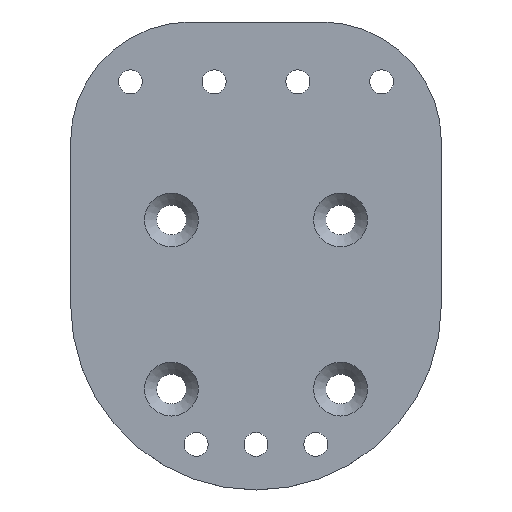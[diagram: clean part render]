
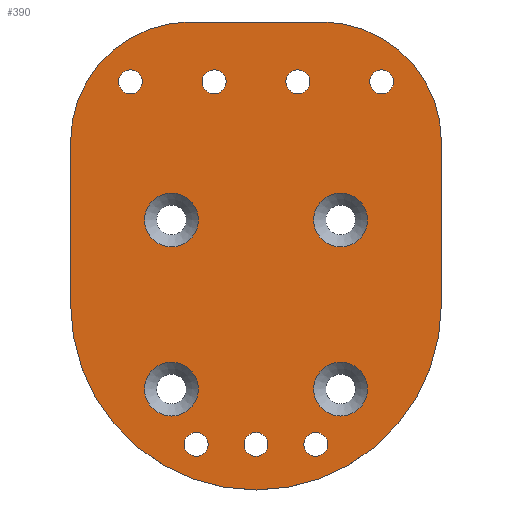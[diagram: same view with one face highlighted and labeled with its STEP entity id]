
A CAD part, top view. The second image highlights one B-rep face of the part: STEP entity #390.
In plain terms, the highlighted planar face has unit normal (0, 0, 1).
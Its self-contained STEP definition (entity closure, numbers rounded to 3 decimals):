
#20=PLANE('',#431);
#26=LINE('',#626,#38);
#29=LINE('',#632,#41);
#30=LINE('',#636,#42);
#38=VECTOR('',#506,10.);
#41=VECTOR('',#511,10.);
#42=VECTOR('',#514,10.);
#52=FACE_BOUND('',#119,.T.);
#53=FACE_BOUND('',#120,.T.);
#54=FACE_BOUND('',#121,.T.);
#55=FACE_BOUND('',#122,.T.);
#56=FACE_BOUND('',#123,.T.);
#57=FACE_BOUND('',#124,.T.);
#58=FACE_BOUND('',#125,.T.);
#59=FACE_BOUND('',#126,.T.);
#60=FACE_BOUND('',#127,.T.);
#61=FACE_BOUND('',#128,.T.);
#62=FACE_BOUND('',#129,.T.);
#91=FACE_OUTER_BOUND('',#118,.T.);
#118=EDGE_LOOP('',(#298,#299,#300,#301,#302,#303));
#119=EDGE_LOOP('',(#304));
#120=EDGE_LOOP('',(#305));
#121=EDGE_LOOP('',(#306));
#122=EDGE_LOOP('',(#307));
#123=EDGE_LOOP('',(#308));
#124=EDGE_LOOP('',(#309));
#125=EDGE_LOOP('',(#310));
#126=EDGE_LOOP('',(#311));
#127=EDGE_LOOP('',(#312));
#128=EDGE_LOOP('',(#313));
#129=EDGE_LOOP('',(#314));
#169=CIRCLE('',#417,1.);
#171=CIRCLE('',#420,1.);
#173=CIRCLE('',#423,1.);
#175=CIRCLE('',#426,1.);
#176=CIRCLE('',#428,10.);
#178=CIRCLE('',#432,15.5);
#179=CIRCLE('',#433,10.);
#180=CIRCLE('',#434,2.25);
#181=CIRCLE('',#435,2.25);
#182=CIRCLE('',#436,1.);
#183=CIRCLE('',#437,1.);
#184=CIRCLE('',#438,1.);
#185=CIRCLE('',#439,2.25);
#186=CIRCLE('',#440,2.25);
#201=VERTEX_POINT('',#598);
#203=VERTEX_POINT('',#603);
#205=VERTEX_POINT('',#608);
#207=VERTEX_POINT('',#613);
#208=VERTEX_POINT('',#616);
#209=VERTEX_POINT('',#617);
#212=VERTEX_POINT('',#625);
#214=VERTEX_POINT('',#631);
#215=VERTEX_POINT('',#633);
#216=VERTEX_POINT('',#635);
#217=VERTEX_POINT('',#638);
#218=VERTEX_POINT('',#640);
#219=VERTEX_POINT('',#642);
#220=VERTEX_POINT('',#644);
#221=VERTEX_POINT('',#646);
#222=VERTEX_POINT('',#648);
#223=VERTEX_POINT('',#650);
#239=EDGE_CURVE('',#201,#201,#169,.T.);
#241=EDGE_CURVE('',#203,#203,#171,.T.);
#243=EDGE_CURVE('',#205,#205,#173,.T.);
#245=EDGE_CURVE('',#207,#207,#175,.T.);
#246=EDGE_CURVE('',#208,#209,#176,.T.);
#250=EDGE_CURVE('',#212,#209,#26,.T.);
#253=EDGE_CURVE('',#208,#214,#29,.T.);
#254=EDGE_CURVE('',#214,#215,#178,.T.);
#255=EDGE_CURVE('',#215,#216,#30,.T.);
#256=EDGE_CURVE('',#212,#216,#179,.T.);
#257=EDGE_CURVE('',#217,#217,#180,.T.);
#258=EDGE_CURVE('',#218,#218,#181,.T.);
#259=EDGE_CURVE('',#219,#219,#182,.T.);
#260=EDGE_CURVE('',#220,#220,#183,.T.);
#261=EDGE_CURVE('',#221,#221,#184,.T.);
#262=EDGE_CURVE('',#222,#222,#185,.T.);
#263=EDGE_CURVE('',#223,#223,#186,.T.);
#298=ORIENTED_EDGE('',*,*,#246,.F.);
#299=ORIENTED_EDGE('',*,*,#253,.T.);
#300=ORIENTED_EDGE('',*,*,#254,.T.);
#301=ORIENTED_EDGE('',*,*,#255,.T.);
#302=ORIENTED_EDGE('',*,*,#256,.F.);
#303=ORIENTED_EDGE('',*,*,#250,.T.);
#304=ORIENTED_EDGE('',*,*,#239,.T.);
#305=ORIENTED_EDGE('',*,*,#241,.T.);
#306=ORIENTED_EDGE('',*,*,#243,.T.);
#307=ORIENTED_EDGE('',*,*,#245,.T.);
#308=ORIENTED_EDGE('',*,*,#257,.F.);
#309=ORIENTED_EDGE('',*,*,#258,.F.);
#310=ORIENTED_EDGE('',*,*,#259,.T.);
#311=ORIENTED_EDGE('',*,*,#260,.T.);
#312=ORIENTED_EDGE('',*,*,#261,.T.);
#313=ORIENTED_EDGE('',*,*,#262,.F.);
#314=ORIENTED_EDGE('',*,*,#263,.F.);
#390=ADVANCED_FACE('',(#91,#52,#53,#54,#55,#56,#57,#58,#59,#60,#61,#62),
#20,.T.);
#417=AXIS2_PLACEMENT_3D('',#599,#476,#477);
#420=AXIS2_PLACEMENT_3D('',#604,#482,#483);
#423=AXIS2_PLACEMENT_3D('',#609,#488,#489);
#426=AXIS2_PLACEMENT_3D('',#614,#494,#495);
#428=AXIS2_PLACEMENT_3D('',#618,#498,#499);
#431=AXIS2_PLACEMENT_3D('',#630,#509,#510);
#432=AXIS2_PLACEMENT_3D('',#634,#512,#513);
#433=AXIS2_PLACEMENT_3D('',#637,#515,#516);
#434=AXIS2_PLACEMENT_3D('',#639,#517,#518);
#435=AXIS2_PLACEMENT_3D('',#641,#519,#520);
#436=AXIS2_PLACEMENT_3D('',#643,#521,#522);
#437=AXIS2_PLACEMENT_3D('',#645,#523,#524);
#438=AXIS2_PLACEMENT_3D('',#647,#525,#526);
#439=AXIS2_PLACEMENT_3D('',#649,#527,#528);
#440=AXIS2_PLACEMENT_3D('',#651,#529,#530);
#476=DIRECTION('center_axis',(0.,0.,-1.));
#477=DIRECTION('ref_axis',(-1.,0.,0.));
#482=DIRECTION('center_axis',(0.,0.,-1.));
#483=DIRECTION('ref_axis',(-1.,0.,0.));
#488=DIRECTION('center_axis',(0.,0.,-1.));
#489=DIRECTION('ref_axis',(-1.,0.,0.));
#494=DIRECTION('center_axis',(0.,0.,-1.));
#495=DIRECTION('ref_axis',(-1.,0.,0.));
#498=DIRECTION('center_axis',(0.,0.,-1.));
#499=DIRECTION('ref_axis',(-0.707,0.707,0.));
#506=DIRECTION('',(-1.,0.,0.));
#509=DIRECTION('center_axis',(0.,0.,1.));
#510=DIRECTION('ref_axis',(1.,0.,0.));
#511=DIRECTION('',(0.,-1.,0.));
#512=DIRECTION('center_axis',(0.,0.,1.));
#513=DIRECTION('ref_axis',(1.,0.,0.));
#514=DIRECTION('',(0.,1.,0.));
#515=DIRECTION('center_axis',(0.,0.,-1.));
#516=DIRECTION('ref_axis',(0.707,0.707,0.));
#517=DIRECTION('center_axis',(0.,0.,1.));
#518=DIRECTION('ref_axis',(-1.,0.,0.));
#519=DIRECTION('center_axis',(0.,0.,1.));
#520=DIRECTION('ref_axis',(-1.,0.,0.));
#521=DIRECTION('center_axis',(0.,0.,-1.));
#522=DIRECTION('ref_axis',(-1.,0.,0.));
#523=DIRECTION('center_axis',(0.,0.,-1.));
#524=DIRECTION('ref_axis',(-1.,0.,0.));
#525=DIRECTION('center_axis',(0.,0.,-1.));
#526=DIRECTION('ref_axis',(-1.,0.,0.));
#527=DIRECTION('center_axis',(0.,0.,1.));
#528=DIRECTION('ref_axis',(-1.,0.,0.));
#529=DIRECTION('center_axis',(0.,0.,1.));
#530=DIRECTION('ref_axis',(-1.,0.,0.));
#598=CARTESIAN_POINT('',(6.,-16.19,1.6));
#599=CARTESIAN_POINT('Origin',(5.,-16.19,1.6));
#603=CARTESIAN_POINT('',(-2.5,14.12,1.6));
#604=CARTESIAN_POINT('Origin',(-3.5,14.12,1.6));
#608=CARTESIAN_POINT('',(4.5,14.12,1.6));
#609=CARTESIAN_POINT('Origin',(3.5,14.12,1.6));
#613=CARTESIAN_POINT('',(-4.,-16.19,1.6));
#614=CARTESIAN_POINT('Origin',(-5.,-16.19,1.6));
#616=CARTESIAN_POINT('',(-15.5,9.12,1.6));
#617=CARTESIAN_POINT('',(-5.5,19.12,1.6));
#618=CARTESIAN_POINT('Origin',(-5.5,9.12,1.6));
#625=CARTESIAN_POINT('',(5.5,19.12,1.6));
#626=CARTESIAN_POINT('',(-15.5,19.12,1.6));
#630=CARTESIAN_POINT('Origin',(0.,3.602,1.6));
#631=CARTESIAN_POINT('',(-15.5,-4.5,1.6));
#632=CARTESIAN_POINT('',(-15.5,-4.5,1.6));
#633=CARTESIAN_POINT('',(15.5,-4.5,1.6));
#634=CARTESIAN_POINT('Origin',(0.,-4.5,1.6));
#635=CARTESIAN_POINT('',(15.5,9.12,1.6));
#636=CARTESIAN_POINT('',(15.5,19.12,1.6));
#637=CARTESIAN_POINT('Origin',(5.5,9.12,1.6));
#638=CARTESIAN_POINT('',(-4.821,2.571,1.6));
#639=CARTESIAN_POINT('Origin',(-7.071,2.571,1.6));
#640=CARTESIAN_POINT('',(9.321,-11.571,1.6));
#641=CARTESIAN_POINT('Origin',(7.071,-11.571,1.6));
#642=CARTESIAN_POINT('',(11.5,14.12,1.6));
#643=CARTESIAN_POINT('Origin',(10.5,14.12,1.6));
#644=CARTESIAN_POINT('',(-9.5,14.12,1.6));
#645=CARTESIAN_POINT('Origin',(-10.5,14.12,1.6));
#646=CARTESIAN_POINT('',(1.,-16.19,1.6));
#647=CARTESIAN_POINT('Origin',(0.,-16.19,
1.6));
#648=CARTESIAN_POINT('',(-4.821,-11.571,1.6));
#649=CARTESIAN_POINT('Origin',(-7.071,-11.571,1.6));
#650=CARTESIAN_POINT('',(9.321,2.571,1.6));
#651=CARTESIAN_POINT('Origin',(7.071,2.571,1.6));
